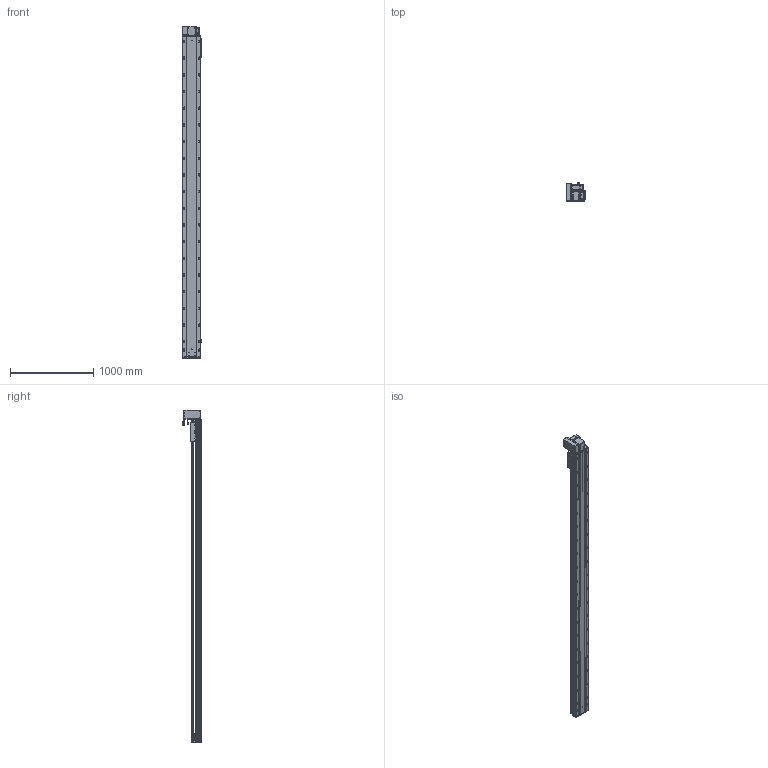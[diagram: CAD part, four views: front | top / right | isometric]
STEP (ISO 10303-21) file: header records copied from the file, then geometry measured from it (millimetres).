
FILE_DESCRIPTION (( 'STEP AP203' ), '1' );
FILE_NAME ('RY220-T-300-UL.SLDASM_3500.step', '2022-07-25T08:37:07', ( '' ), ( '' ), 'SwSTEP 2.0', 'SolidWorks 2016', '' );
FILE_SCHEMA (( 'CONFIG_CONTROL_DESIGN' ));
Length unit declared in the file: millimetre
Products named in the file (14): RY220-同步轮副支撑座6304×2; 覜茼ん672; RY220-T-300-UL.SLDASM_3500; RY220-T-300-奻裔啣_3500; RY220-T-蛌殏萇儂假蚾啣(750W); 110A-T-肮祭謫釱傷裔; 滅袉蝶18-15; RY220-T菁釱-300_3500; RY220圉猾敕々湍臏賑輸; RY220翋肮祭謫裔啣; RY220翋肮祭謫釱; RY220-T-湍謫欶(鍼踢); RY220-俋离672覜茼んえ; 怢湛750W_ECMA-CX0807ES
Assembly tree (18 placements, depth 2):
  RY220-T-300-UL.SLDASM_3500
    RY220-T菁釱-300_3500
    RY220翋肮祭謫釱
    覜茼ん672  x3
    RY220圉猾敕々湍臏賑輸
    RY220-T-300-奻裔啣_3500
    RY220-俋离672覜茼んえ
    滅袉蝶18-15  x3
    RY220翋肮祭謫裔啣  x2
    110A-T-肮祭謫釱傷裔
    怢湛750W_ECMA-CX0807ES
    RY220-T-湍謫欶(鍼踢)
    RY220-T-蛌殏萇儂假蚾啣(750W)
    RY220-同步轮副支撑座6304×2
Bounding box: 239.7 x 231.74 x 3980.5 mm (x, y, z)
Volume: 28437650.5 mm3; surface area: 8854049.8 mm2
Topology: 19 solids, 19 shells, 3134 faces, 8679 edges, 5416 vertices
Faces by surface type: cylinder 1570, plane 1069, cone 413, bspline 56, sphere 16, torus 10
Entity records: 104659 total; most frequent: CARTESIAN_POINT 29445, ORIENTED_EDGE 15514, DIRECTION 15072, EDGE_CURVE 7757, AXIS2_PLACEMENT_3D 5472, VERTEX_POINT 5040, VECTOR 4128, LINE 4128
